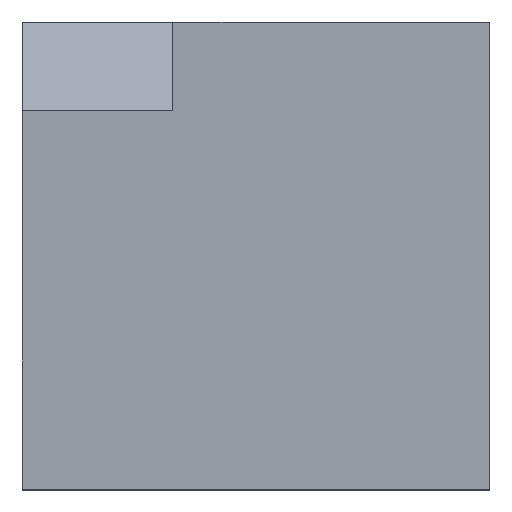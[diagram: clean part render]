
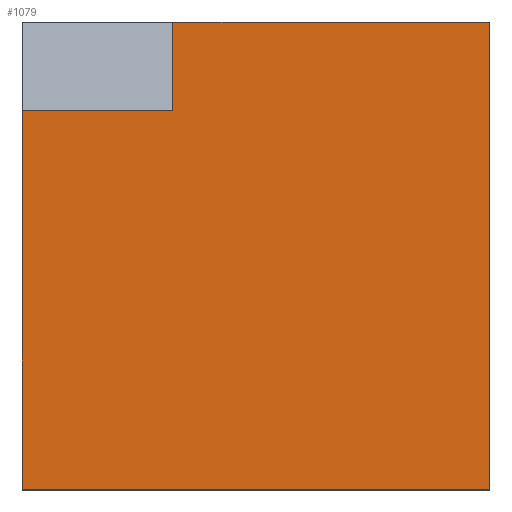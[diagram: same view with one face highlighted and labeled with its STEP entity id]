
A CAD part, top view. The second image highlights one B-rep face of the part: STEP entity #1079.
In plain terms, the highlighted planar face has unit normal (0, 0, 1).
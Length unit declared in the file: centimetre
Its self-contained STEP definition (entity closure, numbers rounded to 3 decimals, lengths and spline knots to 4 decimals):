
#17 = FACE_OUTER_BOUND ( 'NONE', #272, .T. ) ;
#40 = CARTESIAN_POINT ( 'NONE',  ( 1000., 1000., 1000. ) ) ;
#56 = LINE ( 'NONE', #485, #306 ) ;
#75 = DIRECTION ( 'NONE',  ( 0., -1., 0. ) ) ;
#80 = VECTOR ( 'NONE', #749, 100. ) ;
#107 = EDGE_CURVE ( 'NONE', #542, #302, #1126, .T. ) ;
#115 = VECTOR ( 'NONE', #1108, 100. ) ;
#121 = CARTESIAN_POINT ( 'NONE',  ( 1000., 1000., 1000. ) ) ;
#153 = CARTESIAN_POINT ( 'NONE',  ( 1000., 0., 1000. ) ) ;
#165 = CARTESIAN_POINT ( 'NONE',  ( 0., 1000., 1000. ) ) ;
#182 = VERTEX_POINT ( 'NONE', #923 ) ;
#204 = DIRECTION ( 'NONE',  ( 1., 0., 0. ) ) ;
#272 = EDGE_LOOP ( 'NONE', ( #884, #682, #894, #902, #761, #438 ) ) ;
#283 = EDGE_CURVE ( 'NONE', #995, #182, #56, .T. ) ;
#294 = CARTESIAN_POINT ( 'NONE',  ( 322.1088, 1000., 1000. ) ) ;
#299 = PLANE ( 'NONE',  #549 ) ;
#302 = VERTEX_POINT ( 'NONE', #415 ) ;
#306 = VECTOR ( 'NONE', #853, 100. ) ;
#324 = VERTEX_POINT ( 'NONE', #153 ) ;
#343 = LINE ( 'NONE', #860, #115 ) ;
#398 = DIRECTION ( 'NONE',  ( 0., 0., 1. ) ) ;
#403 = EDGE_CURVE ( 'NONE', #302, #452, #869, .T. ) ;
#415 = CARTESIAN_POINT ( 'NONE',  ( 0., 810.2646, 1000. ) ) ;
#432 = DIRECTION ( 'NONE',  ( -1., 0., 0. ) ) ;
#438 = ORIENTED_EDGE ( 'NONE', *, *, #1070, .F. ) ;
#452 = VERTEX_POINT ( 'NONE', #725 ) ;
#455 = VECTOR ( 'NONE', #75, 100. ) ;
#464 = CARTESIAN_POINT ( 'NONE',  ( 0., 0., 1000. ) ) ;
#485 = CARTESIAN_POINT ( 'NONE',  ( 0., 1000., 1000. ) ) ;
#542 = VERTEX_POINT ( 'NONE', #740 ) ;
#549 = AXIS2_PLACEMENT_3D ( 'NONE', #464, #398, #204 ) ;
#622 = VECTOR ( 'NONE', #432, 100. ) ;
#682 = ORIENTED_EDGE ( 'NONE', *, *, #403, .T. ) ;
#725 = CARTESIAN_POINT ( 'NONE',  ( 0., 0., 1000. ) ) ;
#740 = CARTESIAN_POINT ( 'NONE',  ( 322.1088, 810.2646, 1000. ) ) ;
#749 = DIRECTION ( 'NONE',  ( 0., 1., 0. ) ) ;
#761 = ORIENTED_EDGE ( 'NONE', *, *, #283, .T. ) ;
#763 = CARTESIAN_POINT ( 'NONE',  ( 322.1088, 810.2646, 1000. ) ) ;
#779 = EDGE_CURVE ( 'NONE', #452, #324, #343, .T. ) ;
#812 = LINE ( 'NONE', #294, #1116 ) ;
#833 = LINE ( 'NONE', #40, #80 ) ;
#853 = DIRECTION ( 'NONE',  ( -1., 0., 0. ) ) ;
#860 = CARTESIAN_POINT ( 'NONE',  ( 0., 0., 1000. ) ) ;
#869 = LINE ( 'NONE', #165, #455 ) ;
#884 = ORIENTED_EDGE ( 'NONE', *, *, #107, .T. ) ;
#894 = ORIENTED_EDGE ( 'NONE', *, *, #779, .T. ) ;
#902 = ORIENTED_EDGE ( 'NONE', *, *, #1009, .T. ) ;
#923 = CARTESIAN_POINT ( 'NONE',  ( 322.1088, 1000., 1000. ) ) ;
#990 = DIRECTION ( 'NONE',  ( 0., 1., 0. ) ) ;
#995 = VERTEX_POINT ( 'NONE', #121 ) ;
#1009 = EDGE_CURVE ( 'NONE', #324, #995, #833, .T. ) ;
#1070 = EDGE_CURVE ( 'NONE', #542, #182, #812, .T. ) ;
#1079 = ADVANCED_FACE ( 'NONE', ( #17 ), #299, .T. ) ;
#1108 = DIRECTION ( 'NONE',  ( 1., 0., 0. ) ) ;
#1116 = VECTOR ( 'NONE', #990, 100. ) ;
#1126 = LINE ( 'NONE', #763, #622 ) ;
